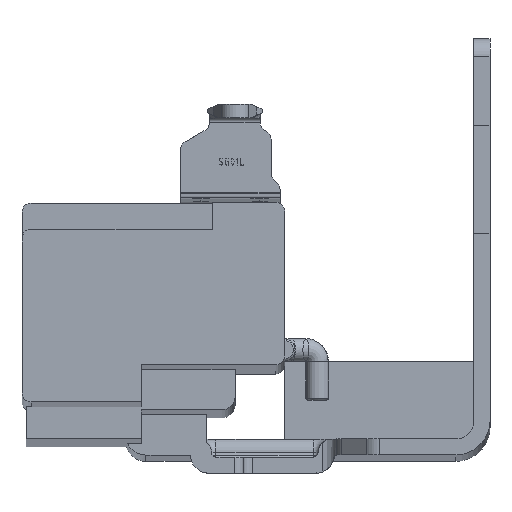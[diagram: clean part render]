
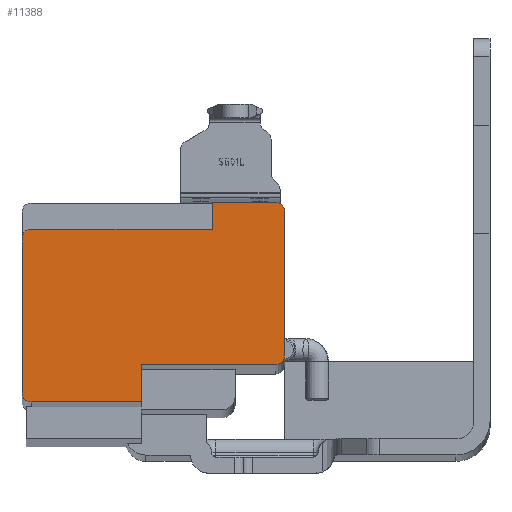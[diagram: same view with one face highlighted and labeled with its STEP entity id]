
A CAD part, top view. The second image highlights one B-rep face of the part: STEP entity #11388.
In plain terms, the highlighted planar face has unit normal (0, 0, 1).
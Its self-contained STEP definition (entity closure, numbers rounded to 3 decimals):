
#15 = CARTESIAN_POINT ( 'NONE',  ( -71.88, -17.1, 544.3 ) ) ;
#134 = VERTEX_POINT ( 'NONE', #3441 ) ;
#223 = DIRECTION ( 'NONE',  ( -1., 0., 0. ) ) ;
#260 = CARTESIAN_POINT ( 'NONE',  ( -42.85, -13., 544.3 ) ) ;
#511 = VECTOR ( 'NONE', #3727, 1000. ) ;
#566 = LINE ( 'NONE', #6983, #4997 ) ;
#682 = CARTESIAN_POINT ( 'NONE',  ( -42.85, 3., 544.3 ) ) ;
#846 = DIRECTION ( 'NONE',  ( 0., 0., -1. ) ) ;
#1004 = ORIENTED_EDGE ( 'NONE', *, *, #4882, .F. ) ;
#1028 = VERTEX_POINT ( 'NONE', #9201 ) ;
#1117 = DIRECTION ( 'NONE',  ( 0., -1., 0. ) ) ;
#1163 = ORIENTED_EDGE ( 'NONE', *, *, #6596, .T. ) ;
#1443 = CARTESIAN_POINT ( 'NONE',  ( -58.68, -14., 544.3 ) ) ;
#1961 = CARTESIAN_POINT ( 'NONE',  ( -40.3, -18.1, 544.3 ) ) ;
#2087 = AXIS2_PLACEMENT_3D ( 'NONE', #7713, #7747, #2414 ) ;
#2138 = CARTESIAN_POINT ( 'NONE',  ( -43.85, -13., 544.3 ) ) ;
#2147 = CARTESIAN_POINT ( 'NONE',  ( -50.85, 1., 544.3 ) ) ;
#2252 = VERTEX_POINT ( 'NONE', #260 ) ;
#2276 = LINE ( 'NONE', #2584, #9106 ) ;
#2357 = EDGE_CURVE ( 'NONE', #9022, #2395, #5290, .T. ) ;
#2395 = VERTEX_POINT ( 'NONE', #682 ) ;
#2414 = DIRECTION ( 'NONE',  ( -1., 0., 0. ) ) ;
#2584 = CARTESIAN_POINT ( 'NONE',  ( -58.68, 0., 544.3 ) ) ;
#2595 = AXIS2_PLACEMENT_3D ( 'NONE', #6170, #846, #7035 ) ;
#2704 = VERTEX_POINT ( 'NONE', #5241 ) ;
#2996 = DIRECTION ( 'NONE',  ( -1., 0., 0. ) ) ;
#3018 = VERTEX_POINT ( 'NONE', #10048 ) ;
#3199 = CIRCLE ( 'NONE', #2595, 0.97 ) ;
#3378 = DIRECTION ( 'NONE',  ( -1., 0., 0. ) ) ;
#3416 = DIRECTION ( 'NONE',  ( 0., 0., -1. ) ) ;
#3441 = CARTESIAN_POINT ( 'NONE',  ( -50.85, 4., 544.3 ) ) ;
#3488 = EDGE_CURVE ( 'NONE', #8850, #8304, #2276, .T. ) ;
#3535 = CARTESIAN_POINT ( 'NONE',  ( -48.65, 4., 544.3 ) ) ;
#3727 = DIRECTION ( 'NONE',  ( 1., 0., 0. ) ) ;
#4104 = LINE ( 'NONE', #10583, #6502 ) ;
#4110 = EDGE_CURVE ( 'NONE', #3018, #134, #9098, .T. ) ;
#4161 = CARTESIAN_POINT ( 'NONE',  ( -43.85, 3., 544.3 ) ) ;
#4303 = CARTESIAN_POINT ( 'NONE',  ( -58.68, -18.1, 544.3 ) ) ;
#4516 = ORIENTED_EDGE ( 'NONE', *, *, #3488, .F. ) ;
#4875 = VERTEX_POINT ( 'NONE', #9704 ) ;
#4882 = EDGE_CURVE ( 'NONE', #9675, #2704, #3199, .T. ) ;
#4897 = EDGE_CURVE ( 'NONE', #3018, #2704, #7960, .T. ) ;
#4932 = EDGE_CURVE ( 'NONE', #134, #9022, #5309, .T. ) ;
#4997 = VECTOR ( 'NONE', #6095, 1000. ) ;
#5043 = ORIENTED_EDGE ( 'NONE', *, *, #4932, .F. ) ;
#5231 = LINE ( 'NONE', #1961, #511 ) ;
#5241 = CARTESIAN_POINT ( 'NONE',  ( -70.91, 1., 544.3 ) ) ;
#5290 = CIRCLE ( 'NONE', #6468, 1. ) ;
#5309 = LINE ( 'NONE', #3535, #7398 ) ;
#5505 = EDGE_CURVE ( 'NONE', #4875, #8850, #566, .T. ) ;
#5543 = DIRECTION ( 'NONE',  ( 0., 0., -1. ) ) ;
#5667 = CIRCLE ( 'NONE', #11009, 1. ) ;
#5672 = EDGE_LOOP ( 'NONE', ( #1163, #7395, #6033, #4516, #7979, #7758, #11484, #11255, #5043, #10299, #7792, #1004 ) ) ;
#6033 = ORIENTED_EDGE ( 'NONE', *, *, #7059, .T. ) ;
#6095 = DIRECTION ( 'NONE',  ( -1., 0., 0. ) ) ;
#6142 = DIRECTION ( 'NONE',  ( 0., -1., 0. ) ) ;
#6170 = CARTESIAN_POINT ( 'NONE',  ( -70.91, 0.03, 544.3 ) ) ;
#6444 = CARTESIAN_POINT ( 'NONE',  ( -71.88, 0., 544.3 ) ) ;
#6449 = VERTEX_POINT ( 'NONE', #15 ) ;
#6468 = AXIS2_PLACEMENT_3D ( 'NONE', #4161, #3416, #3378 ) ;
#6502 = VECTOR ( 'NONE', #6142, 1000. ) ;
#6596 = EDGE_CURVE ( 'NONE', #9675, #6449, #9706, .T. ) ;
#6708 = VECTOR ( 'NONE', #7453, 1000. ) ;
#6983 = CARTESIAN_POINT ( 'NONE',  ( -40.3, -14., 544.3 ) ) ;
#7035 = DIRECTION ( 'NONE',  ( -1., 0., 0. ) ) ;
#7059 = EDGE_CURVE ( 'NONE', #1028, #8304, #5231, .T. ) ;
#7395 = ORIENTED_EDGE ( 'NONE', *, *, #9111, .F. ) ;
#7398 = VECTOR ( 'NONE', #8889, 1000. ) ;
#7453 = DIRECTION ( 'NONE',  ( 0., 1., 0. ) ) ;
#7621 = CIRCLE ( 'NONE', #10943, 1. ) ;
#7713 = CARTESIAN_POINT ( 'NONE',  ( -40.3, 0., 544.3 ) ) ;
#7747 = DIRECTION ( 'NONE',  ( 0., 0., 1. ) ) ;
#7758 = ORIENTED_EDGE ( 'NONE', *, *, #10021, .F. ) ;
#7792 = ORIENTED_EDGE ( 'NONE', *, *, #4897, .T. ) ;
#7960 = LINE ( 'NONE', #10615, #10073 ) ;
#7961 = DIRECTION ( 'NONE',  ( -1., 0., 0. ) ) ;
#7979 = ORIENTED_EDGE ( 'NONE', *, *, #5505, .F. ) ;
#8304 = VERTEX_POINT ( 'NONE', #4303 ) ;
#8362 = DIRECTION ( 'NONE',  ( 0., 0., -1. ) ) ;
#8838 = DIRECTION ( 'NONE',  ( 0., -1., 0. ) ) ;
#8850 = VERTEX_POINT ( 'NONE', #1443 ) ;
#8889 = DIRECTION ( 'NONE',  ( 1., 0., 0. ) ) ;
#8975 = EDGE_CURVE ( 'NONE', #2395, #2252, #4104, .T. ) ;
#9022 = VERTEX_POINT ( 'NONE', #10626 ) ;
#9098 = LINE ( 'NONE', #2147, #6708 ) ;
#9106 = VECTOR ( 'NONE', #8838, 1000. ) ;
#9111 = EDGE_CURVE ( 'NONE', #1028, #6449, #5667, .T. ) ;
#9201 = CARTESIAN_POINT ( 'NONE',  ( -70.88, -18.1, 544.3 ) ) ;
#9421 = VECTOR ( 'NONE', #1117, 1000. ) ;
#9675 = VERTEX_POINT ( 'NONE', #10879 ) ;
#9704 = CARTESIAN_POINT ( 'NONE',  ( -43.85, -14., 544.3 ) ) ;
#9706 = LINE ( 'NONE', #6444, #9421 ) ;
#10021 = EDGE_CURVE ( 'NONE', #2252, #4875, #7621, .T. ) ;
#10048 = CARTESIAN_POINT ( 'NONE',  ( -50.85, 1., 544.3 ) ) ;
#10073 = VECTOR ( 'NONE', #7961, 1000. ) ;
#10299 = ORIENTED_EDGE ( 'NONE', *, *, #4110, .F. ) ;
#10583 = CARTESIAN_POINT ( 'NONE',  ( -42.85, 0., 544.3 ) ) ;
#10615 = CARTESIAN_POINT ( 'NONE',  ( -41.05, 1., 544.3 ) ) ;
#10626 = CARTESIAN_POINT ( 'NONE',  ( -43.85, 4., 544.3 ) ) ;
#10879 = CARTESIAN_POINT ( 'NONE',  ( -71.88, 0.03, 544.3 ) ) ;
#10895 = CARTESIAN_POINT ( 'NONE',  ( -70.88, -17.1, 544.3 ) ) ;
#10943 = AXIS2_PLACEMENT_3D ( 'NONE', #2138, #8362, #2996 ) ;
#11009 = AXIS2_PLACEMENT_3D ( 'NONE', #10895, #5543, #223 ) ;
#11075 = FACE_OUTER_BOUND ( 'NONE', #5672, .T. ) ;
#11255 = ORIENTED_EDGE ( 'NONE', *, *, #2357, .F. ) ;
#11290 = PLANE ( 'NONE',  #2087 ) ;
#11388 = ADVANCED_FACE ( 'NONE', ( #11075 ), #11290, .T. ) ;
#11484 = ORIENTED_EDGE ( 'NONE', *, *, #8975, .F. ) ;
